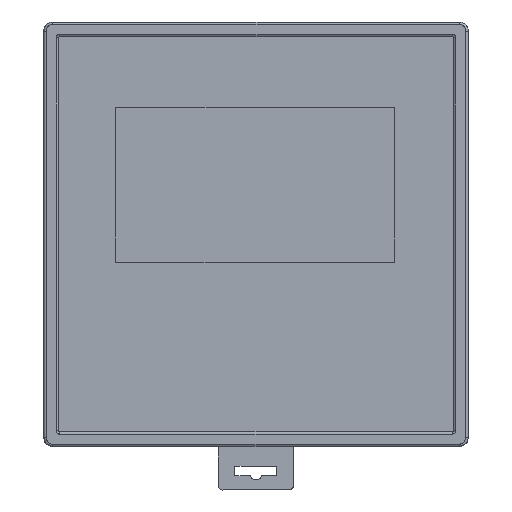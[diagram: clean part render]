
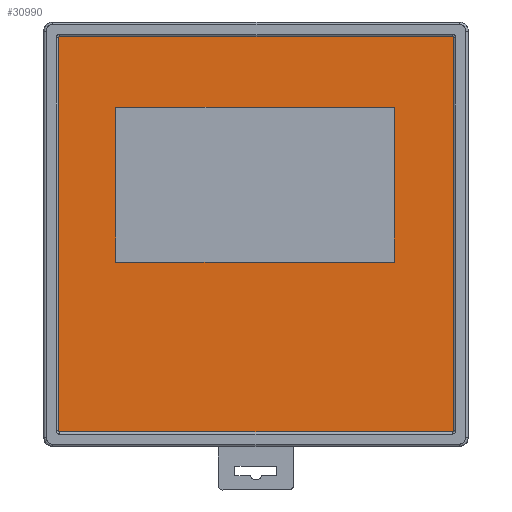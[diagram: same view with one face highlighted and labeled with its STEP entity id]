
A CAD part, top view. The second image highlights one B-rep face of the part: STEP entity #30990.
In plain terms, the highlighted planar face has unit normal (0, 0, 1).
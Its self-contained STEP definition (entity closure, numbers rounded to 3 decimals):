
#1479 = CARTESIAN_POINT ( 'NONE',  ( 92.4, 13.321, 62.1 ) ) ;
#2193 = ORIENTED_EDGE ( 'NONE', *, *, #31247, .T. ) ;
#2568 = DIRECTION ( 'NONE',  ( 0., 0., 1. ) ) ;
#3135 = VECTOR ( 'NONE', #37478, 1000. ) ;
#4022 = AXIS2_PLACEMENT_3D ( 'NONE', #34159, #29006, #38908 ) ;
#4813 = VERTEX_POINT ( 'NONE', #12213 ) ;
#5522 = DIRECTION ( 'NONE',  ( 0., 0., 1. ) ) ;
#5814 = DIRECTION ( 'NONE',  ( 0., -1., 0. ) ) ;
#6532 = PLANE ( 'NONE',  #63016 ) ;
#7600 = CARTESIAN_POINT ( 'NONE',  ( 16.3, 51.42, 62.1 ) ) ;
#7712 = VERTEX_POINT ( 'NONE', #11815 ) ;
#10210 = DIRECTION ( 'NONE',  ( 0., 1., 0. ) ) ;
#10906 = CARTESIAN_POINT ( 'NONE',  ( 3.3, 102.12, 62.1 ) ) ;
#10943 = CARTESIAN_POINT ( 'NONE',  ( 16.3, 86.42, 62.1 ) ) ;
#11815 = CARTESIAN_POINT ( 'NONE',  ( 16.3, 86.42, 62.1 ) ) ;
#12213 = CARTESIAN_POINT ( 'NONE',  ( 92.4, 102.421, 62.1 ) ) ;
#12414 = CARTESIAN_POINT ( 'NONE',  ( 92.4, 102.121, 62.1 ) ) ;
#14253 = CARTESIAN_POINT ( 'NONE',  ( 3.3, 102.12, 62.1 ) ) ;
#14733 = CARTESIAN_POINT ( 'NONE',  ( 3.6, 13.32, 62.1 ) ) ;
#15210 = VECTOR ( 'NONE', #10210, 1000. ) ;
#15934 = DIRECTION ( 'NONE',  ( 0., 1., 0. ) ) ;
#16628 = ORIENTED_EDGE ( 'NONE', *, *, #38963, .T. ) ;
#16741 = VERTEX_POINT ( 'NONE', #20547 ) ;
#17634 = ORIENTED_EDGE ( 'NONE', *, *, #33455, .T. ) ;
#18179 = CARTESIAN_POINT ( 'NONE',  ( 92.4, 13.021, 62.1 ) ) ;
#18555 = ORIENTED_EDGE ( 'NONE', *, *, #66475, .T. ) ;
#18640 = CIRCLE ( 'NONE', #47577, 0.3 ) ;
#19238 = DIRECTION ( 'NONE',  ( 0., -1., 0. ) ) ;
#19704 = ORIENTED_EDGE ( 'NONE', *, *, #26769, .T. ) ;
#20547 = CARTESIAN_POINT ( 'NONE',  ( 92.7, 13.321, 62.1 ) ) ;
#20610 = AXIS2_PLACEMENT_3D ( 'NONE', #14733, #21237, #42310 ) ;
#21237 = DIRECTION ( 'NONE',  ( 0., 0., 1. ) ) ;
#21690 = VERTEX_POINT ( 'NONE', #71920 ) ;
#23374 = VERTEX_POINT ( 'NONE', #14253 ) ;
#23561 = VERTEX_POINT ( 'NONE', #24658 ) ;
#23811 = ORIENTED_EDGE ( 'NONE', *, *, #38052, .T. ) ;
#24658 = CARTESIAN_POINT ( 'NONE',  ( 3.6, 13.02, 62.1 ) ) ;
#25180 = EDGE_CURVE ( 'NONE', #43032, #66649, #51755, .T. ) ;
#26532 = CARTESIAN_POINT ( 'NONE',  ( 79.3, 51.421, 62.1 ) ) ;
#26769 = EDGE_CURVE ( 'NONE', #4813, #21690, #66863, .T. ) ;
#27203 = CIRCLE ( 'NONE', #4022, 0.3 ) ;
#27671 = DIRECTION ( 'NONE',  ( 0., -1., 0. ) ) ;
#27772 = CARTESIAN_POINT ( 'NONE',  ( 79.299, 86.421, 62.1 ) ) ;
#27899 = CARTESIAN_POINT ( 'NONE',  ( 92.4, 102.421, 62.1 ) ) ;
#28229 = CIRCLE ( 'NONE', #38709, 0.3 ) ;
#28691 = ORIENTED_EDGE ( 'NONE', *, *, #40063, .T. ) ;
#28929 = VECTOR ( 'NONE', #5814, 1000. ) ;
#29006 = DIRECTION ( 'NONE',  ( 0., 0., 1. ) ) ;
#30973 = LINE ( 'NONE', #53493, #46841 ) ;
#30990 = ADVANCED_FACE ( 'NONE', ( #66919, #39969 ), #6532, .T. ) ;
#31247 = EDGE_CURVE ( 'NONE', #23561, #33754, #30973, .T. ) ;
#33455 = EDGE_CURVE ( 'NONE', #66649, #58223, #41818, .T. ) ;
#33641 = CARTESIAN_POINT ( 'NONE',  ( 79.299, 86.421, 62.1 ) ) ;
#33754 = VERTEX_POINT ( 'NONE', #18179 ) ;
#34159 = CARTESIAN_POINT ( 'NONE',  ( 3.6, 102.12, 62.1 ) ) ;
#34687 = LINE ( 'NONE', #27772, #60160 ) ;
#36329 = VECTOR ( 'NONE', #55732, 1000. ) ;
#37478 = DIRECTION ( 'NONE',  ( -1., 0., 0. ) ) ;
#38052 = EDGE_CURVE ( 'NONE', #58223, #7712, #44334, .T. ) ;
#38709 = AXIS2_PLACEMENT_3D ( 'NONE', #12414, #5522, #27671 ) ;
#38908 = DIRECTION ( 'NONE',  ( 0., -1., 0. ) ) ;
#38963 = EDGE_CURVE ( 'NONE', #62545, #4813, #28229, .T. ) ;
#39073 = DIRECTION ( 'NONE',  ( 1., 0., 0. ) ) ;
#39969 = FACE_OUTER_BOUND ( 'NONE', #44277, .T. ) ;
#40063 = EDGE_CURVE ( 'NONE', #21690, #23374, #27203, .T. ) ;
#41818 = LINE ( 'NONE', #26532, #3135 ) ;
#42310 = DIRECTION ( 'NONE',  ( 0., -1., 0. ) ) ;
#42374 = CARTESIAN_POINT ( 'NONE',  ( 92.7, 102.121, 62.1 ) ) ;
#42779 = CARTESIAN_POINT ( 'NONE',  ( 92.7, 13.321, 62.1 ) ) ;
#43032 = VERTEX_POINT ( 'NONE', #49210 ) ;
#43832 = CIRCLE ( 'NONE', #20610, 0.3 ) ;
#44277 = EDGE_LOOP ( 'NONE', ( #45409, #2193, #45970, #65494, #16628, #19704, #28691, #61787 ) ) ;
#44334 = LINE ( 'NONE', #10943, #15210 ) ;
#45409 = ORIENTED_EDGE ( 'NONE', *, *, #53659, .T. ) ;
#45970 = ORIENTED_EDGE ( 'NONE', *, *, #57089, .T. ) ;
#46841 = VECTOR ( 'NONE', #69938, 1000. ) ;
#47577 = AXIS2_PLACEMENT_3D ( 'NONE', #1479, #2568, #51232 ) ;
#47925 = VECTOR ( 'NONE', #49688, 1000. ) ;
#49210 = CARTESIAN_POINT ( 'NONE',  ( 79.299, 86.421, 62.1 ) ) ;
#49688 = DIRECTION ( 'NONE',  ( -1., 0., 0. ) ) ;
#51232 = DIRECTION ( 'NONE',  ( 0., -1., 0. ) ) ;
#51755 = LINE ( 'NONE', #33641, #36329 ) ;
#51904 = CARTESIAN_POINT ( 'NONE',  ( 48., 57.72, 62.1 ) ) ;
#52929 = VERTEX_POINT ( 'NONE', #62103 ) ;
#53493 = CARTESIAN_POINT ( 'NONE',  ( 3.6, 13.02, 62.1 ) ) ;
#53659 = EDGE_CURVE ( 'NONE', #52929, #23561, #43832, .T. ) ;
#55222 = ORIENTED_EDGE ( 'NONE', *, *, #25180, .T. ) ;
#55732 = DIRECTION ( 'NONE',  ( 0., -1., 0. ) ) ;
#57089 = EDGE_CURVE ( 'NONE', #33754, #16741, #18640, .T. ) ;
#58223 = VERTEX_POINT ( 'NONE', #7600 ) ;
#60160 = VECTOR ( 'NONE', #39073, 1000. ) ;
#61744 = EDGE_LOOP ( 'NONE', ( #23811, #18555, #55222, #17634 ) ) ;
#61787 = ORIENTED_EDGE ( 'NONE', *, *, #66848, .T. ) ;
#62103 = CARTESIAN_POINT ( 'NONE',  ( 3.3, 13.32, 62.1 ) ) ;
#62545 = VERTEX_POINT ( 'NONE', #42374 ) ;
#63016 = AXIS2_PLACEMENT_3D ( 'NONE', #51904, #68330, #19238 ) ;
#63953 = VECTOR ( 'NONE', #15934, 1000. ) ;
#65494 = ORIENTED_EDGE ( 'NONE', *, *, #68150, .T. ) ;
#65533 = CARTESIAN_POINT ( 'NONE',  ( 79.3, 51.421, 62.1 ) ) ;
#65726 = LINE ( 'NONE', #42779, #63953 ) ;
#66475 = EDGE_CURVE ( 'NONE', #7712, #43032, #34687, .T. ) ;
#66649 = VERTEX_POINT ( 'NONE', #65533 ) ;
#66848 = EDGE_CURVE ( 'NONE', #23374, #52929, #71249, .T. ) ;
#66863 = LINE ( 'NONE', #27899, #47925 ) ;
#66919 = FACE_BOUND ( 'NONE', #61744, .T. ) ;
#68150 = EDGE_CURVE ( 'NONE', #16741, #62545, #65726, .T. ) ;
#68330 = DIRECTION ( 'NONE',  ( 0., 0., 1. ) ) ;
#69938 = DIRECTION ( 'NONE',  ( 1., 0., 0. ) ) ;
#71249 = LINE ( 'NONE', #10906, #28929 ) ;
#71920 = CARTESIAN_POINT ( 'NONE',  ( 3.6, 102.42, 62.1 ) ) ;
